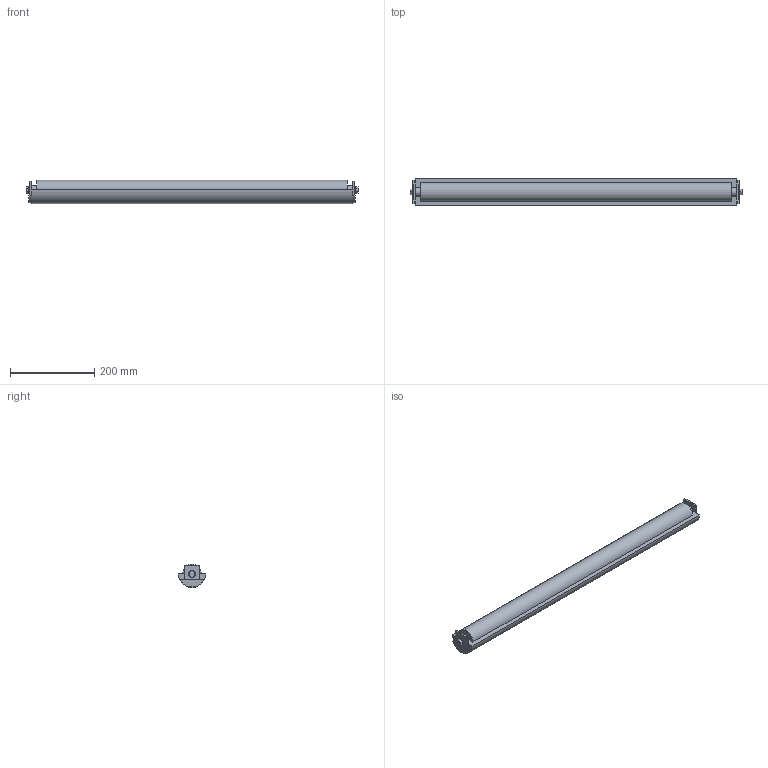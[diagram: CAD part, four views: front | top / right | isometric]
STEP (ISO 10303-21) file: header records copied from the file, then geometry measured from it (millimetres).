
FILE_DESCRIPTION (( 'STEP AP214' ), '1' );
FILE_NAME ('03.102I01.770.N FS-770-MTS2-100.INOX Idler section.STEP', '2025-02-11T11:30:16', ( '' ), ( '' ), 'SwSTEP 2.0', 'SolidWorks 2024', '' );
FILE_SCHEMA (( 'AUTOMOTIVE_DESIGN' ));
Length unit declared in the file: millimetre
Products named in the file (1): 03.102I01.770.N FS-770-MTS2-100.INOX Idler section
Bounding box: 786.8 x 65.4 x 55.2 mm (x, y, z)
Volume: 1886467.6 mm3; surface area: 159727.4 mm2
Topology: 1 solids, 1 shells, 64 faces, 164 edges, 108 vertices
Faces by surface type: plane 40, cylinder 24
Entity records: 1967 total; most frequent: DIRECTION 342, CARTESIAN_POINT 337, ORIENTED_EDGE 328, EDGE_CURVE 164, VECTOR 116, LINE 116, AXIS2_PLACEMENT_3D 113, VERTEX_POINT 108
